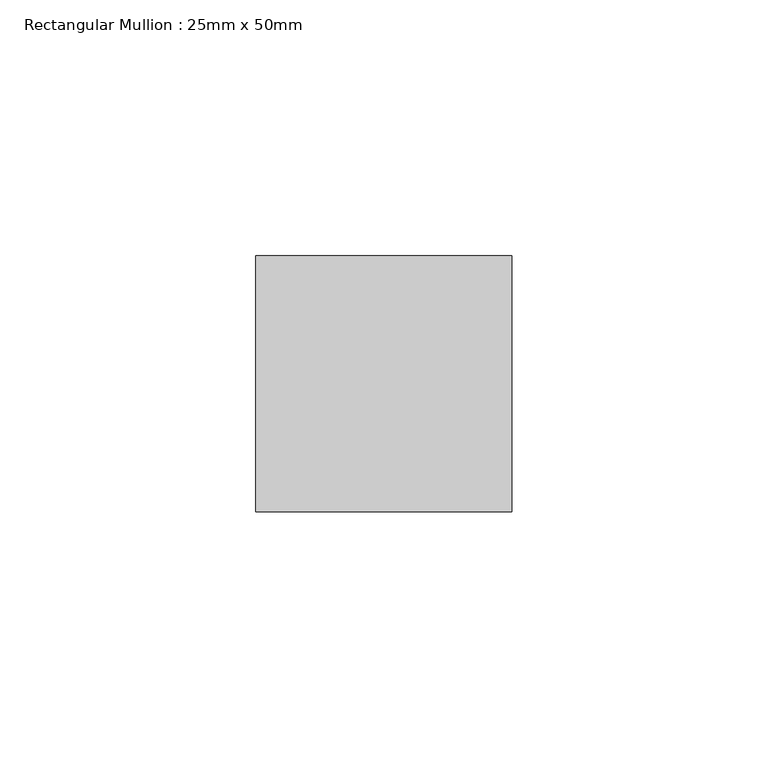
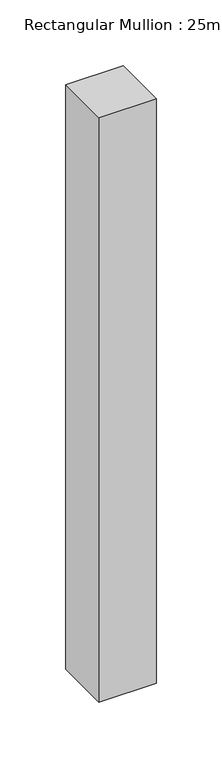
"""IFC4 building model written with IfcOpenShell, lengths in millimetres: member geometry, Rectangular Mullion : 25mm x 50mm."""

import ifcopenshell
import ifcopenshell.guid

model = None  # the IFC model being written
_history = None  # IfcOwnerHistory: only IFC2X3 demands one
_inside = {}  # id of a spatial element -> (the spatial element, [elements in it])
_under = {}  # id of a project, library or spatial element -> (it, [spatial elements below it])
_declared = {}  # id of a project -> (the project, [libraries it declares])
_typed = {}  # id of a type object -> (the type object, [elements of that type])
_made_of = {}  # id of a material, layer set ... -> (it, [elements and type objects made of it])


def new_model(schema):
    """Start an empty IFC model of exactly this schema.

    Asked for "IFC4X3", IfcOpenShell would pick the latest addendum, in which some entities
    have other attributes; the version numbers below select the first issue.
    IFC2X3 requires an IfcOwnerHistory on every rooted entity: one is made here for all.
    """
    global model, _history
    if schema == "IFC4X3":
        model = ifcopenshell.file(schema_version=(4, 3, 0, 0))
    else:
        model = ifcopenshell.file(schema=schema)
    _inside.clear()
    _under.clear()
    _declared.clear()
    _typed.clear()
    _made_of.clear()
    _history = None
    if model.schema == "IFC2X3":
        org = make("IfcOrganization", Name="unknown")
        user = make(
            "IfcPersonAndOrganization",
            ThePerson=make("IfcPerson", FamilyName="unknown"),
            TheOrganization=org,
        )
        app = make(
            "IfcApplication",
            ApplicationDeveloper=org,
            Version="unknown",
            ApplicationFullName="unknown",
            ApplicationIdentifier="unknown",
        )
        _history = make(
            "IfcOwnerHistory",
            OwningUser=user,
            OwningApplication=app,
            ChangeAction="ADDED",
            CreationDate=0,
        )
    return model


def make(cls, **values):
    """One entity of the class cls with the attributes given. An attribute that is None is left unset."""
    return model.create_entity(
        cls, **{name: value for name, value in values.items() if value is not None}
    )


def rooted(cls, **values):
    """An entity with a GlobalId (a new one), such as an element, a storey or a relation."""
    return make(cls, GlobalId=ifcopenshell.guid.new(), OwnerHistory=_history, **values)


def si_unit(unit_type, name, prefix=None):
    """IfcSIUnit, for example si_unit("LENGTHUNIT", "METRE", prefix="MILLI")."""
    return make("IfcSIUnit", UnitType=unit_type, Prefix=prefix, Name=name)


def assignment(units):
    """IfcUnitAssignment: the units of a project."""
    return None if units is None else make("IfcUnitAssignment", Units=units)


def point(xyz):
    """IfcCartesianPoint."""
    return None if xyz is None else make("IfcCartesianPoint", Coordinates=xyz)


def direction(xyz):
    """IfcDirection."""
    return None if xyz is None else make("IfcDirection", DirectionRatios=xyz)


def frame(location, z_axis=None, x_axis=None):
    """IfcAxis2Placement3D, a coordinate frame: its origin and axes. An axis left out is left unset."""
    return make(
        "IfcAxis2Placement3D",
        Location=point(location),
        Axis=direction(z_axis),
        RefDirection=direction(x_axis),
    )


def origin():
    """The frame at (0, 0, 0) with its axes left unset."""
    return frame((0.0, 0.0, 0.0))


def place(relative_to, where):
    """IfcLocalPlacement: puts the frame where relative to a parent placement (None: the world)."""
    return make(
        "IfcLocalPlacement", PlacementRelTo=relative_to, RelativePlacement=where
    )


def context(
    kind, dimensions, precision=None, world=None, true_north=None, identifier=None
):
    """IfcGeometricRepresentationContext, for example the 3D "Model" context."""
    return make(
        "IfcGeometricRepresentationContext",
        ContextIdentifier=identifier,
        ContextType=kind,
        CoordinateSpaceDimension=dimensions,
        Precision=precision,
        WorldCoordinateSystem=world,
        TrueNorth=true_north,
    )


def project(units=None, contexts=None):
    """IfcProject with its units and contexts."""
    return rooted(
        "IfcProject",
        Name="project",
        RepresentationContexts=contexts,
        UnitsInContext=assignment(units),
    )


def spatial(cls, under=None, at=None, **own):
    """A site, building, storey or space (cls), placed at a placement, below another one or the project."""
    s = rooted(cls, ObjectPlacement=at, **own)
    if under is not None:
        _under.setdefault(under.id(), (under, []))[1].append(s)
    return s


def polyline(points):
    """IfcPolyline through the points."""
    return make("IfcPolyline", Points=[point(p) for p in points])


def outline(outer, holes=None, kind="AREA"):
    """IfcArbitraryClosedProfileDef: a profile drawn as a closed curve; with holes, ...WithVoids."""
    if holes is None:
        return make("IfcArbitraryClosedProfileDef", ProfileType=kind, OuterCurve=outer)
    return make(
        "IfcArbitraryProfileDefWithVoids",
        ProfileType=kind,
        OuterCurve=outer,
        InnerCurves=holes,
    )


def extrude(swept, where, along, depth):
    """IfcExtrudedAreaSolid: the profile swept, set in the frame where, extruded along a direction by depth."""
    return make(
        "IfcExtrudedAreaSolid",
        SweptArea=swept,
        Position=where,
        ExtrudedDirection=direction(along),
        Depth=depth,
    )


def shape(context_of_items, identifier, shape_type, items):
    """IfcShapeRepresentation: the items that make up one representation, for example the "Body"."""
    return make(
        "IfcShapeRepresentation",
        ContextOfItems=context_of_items,
        RepresentationIdentifier=identifier,
        RepresentationType=shape_type,
        Items=items,
    )


def source(mapping_origin, context_of_items, identifier, shape_type, items):
    """IfcRepresentationMap: a shape defined once, which mapped items show again and again."""
    return make(
        "IfcRepresentationMap",
        MappingOrigin=mapping_origin,
        MappedRepresentation=shape(context_of_items, identifier, shape_type, items),
    )


def transform(
    local_origin,
    x_axis=None,
    y_axis=None,
    z_axis=None,
    scale=None,
    scale2=None,
    scale3=None,
    uniform=True,
):
    """IfcCartesianTransformationOperator3D, or its non-uniform kind. x_axis, y_axis, z_axis: its Axis1, 2, 3."""
    if uniform:
        return make(
            "IfcCartesianTransformationOperator3D",
            Axis1=direction(x_axis),
            Axis2=direction(y_axis),
            LocalOrigin=point(local_origin),
            Scale=scale,
            Axis3=direction(z_axis),
        )
    return make(
        "IfcCartesianTransformationOperator3DnonUniform",
        Axis1=direction(x_axis),
        Axis2=direction(y_axis),
        LocalOrigin=point(local_origin),
        Scale=scale,
        Axis3=direction(z_axis),
        Scale2=scale2,
        Scale3=scale3,
    )


def mapped(mapping_source, mapping_target):
    """IfcMappedItem: shows the shape of a source again, moved by a transform."""
    return make(
        "IfcMappedItem", MappingSource=mapping_source, MappingTarget=mapping_target
    )


def made_of(thing, what):
    """Note that an element or type object is made of a material, layer set ...; save() writes the relation."""
    if what is not None:
        _made_of.setdefault(what.id(), (what, []))[1].append(thing)
    return thing


def element(
    cls,
    number,
    at=None,
    inside=None,
    cuts=None,
    type_object=None,
    material=None,
    context=None,
    identifier="Body",
    shape_type=None,
    held_by="IfcProductDefinitionShape",
    body=None,
    shapes=None,
    **own,
):
    """One element of the class cls, such as IfcWall. Its Tag is "e" and its number.

    at: its placement. inside: the storey or other place that contains it. cuts: it is an
    opening in that element (IfcRelVoidsElement). A single representation is given by context,
    identifier, shape_type and body (its items); several are given by shapes. held_by: the class
    of the entity that holds the representations. save() writes the other relations.
    """
    e = rooted(cls, Tag="e%d" % number, ObjectPlacement=at, **own)
    if body is not None:
        shapes = [shape(context, identifier, shape_type, body)]
    if shapes is not None:
        e.Representation = make(held_by, Representations=shapes)
    if inside is not None:
        _inside.setdefault(inside.id(), (inside, []))[1].append(e)
    if cuts is not None:
        rooted(
            "IfcRelVoidsElement", RelatingBuildingElement=cuts, RelatedOpeningElement=e
        )
    if type_object is not None:
        _typed.setdefault(type_object.id(), (type_object, []))[1].append(e)
    return made_of(e, material)


def aggregate(whole, parts):
    """IfcRelAggregates: a whole, such as a stair, and the parts it consists of."""
    return rooted("IfcRelAggregates", RelatingObject=whole, RelatedObjects=parts)


def save(model, path):
    """Write the relations noted so far, then the file.

    IfcRelAggregates (storeys below a building ...), IfcRelContainedInSpatialStructure (elements
    in a storey), IfcRelDefinesByType, IfcRelAssociatesMaterial and IfcRelDeclares: one each for
    every whole, place, type object, material and project.
    """
    for whole, parts in _under.values():
        aggregate(whole, parts)
    for where, things in _inside.values():
        rooted(
            "IfcRelContainedInSpatialStructure",
            RelatedElements=things,
            RelatingStructure=where,
        )
    for kind, things in _typed.values():
        rooted("IfcRelDefinesByType", RelatedObjects=things, RelatingType=kind)
    for what, things in _made_of.values():
        rooted("IfcRelAssociatesMaterial", RelatedObjects=things, RelatingMaterial=what)
    for by, libraries in _declared.values():
        rooted("IfcRelDeclares", RelatingContext=by, RelatedDefinitions=libraries)
    model.write(path)


def rectangular_mullion_25mm_x_50mm_f5f1bae9(model_context):
    return source(origin(), model_context, "Body", "SweptSolid", [
        extrude(outline(polyline([(25.0, 25.0), (25.0, -25.0), (-25.0, -25.0), (-25.0, 25.0), (25.0, 25.0)])), frame((0.0, 0.0, -540.9991859), z_axis=(0.0, 0.0, 1.0), x_axis=(1.0, 0.0, 0.0)), (0.0, 0.0, 1.0), 540.9991859),
    ])


if __name__ == "__main__":
    model = new_model("IFC4")
    model_context = context("Model", 3, world=origin())
    ifc_project = project(units=[si_unit("LENGTHUNIT", "METRE", prefix="MILLI")], contexts=[model_context])
    site = spatial("IfcSite", under=ifc_project)
    building = spatial("IfcBuilding", under=site)
    placement = place(None, origin())
    rectangular_mullion_25mm_x_50mm_shape = rectangular_mullion_25mm_x_50mm_f5f1bae9(model_context)
    element("IfcMember", 1, ObjectType="Rectangular Mullion : 25mm x 50mm", at=placement, inside=building, context=model_context, shape_type="MappedRepresentation", body=[
        mapped(rectangular_mullion_25mm_x_50mm_shape, transform((0.0, 0.0, 0.0), x_axis=(1.0, 0.0, 0.0), y_axis=(0.0, 1.0, 0.0), z_axis=(0.0, 0.0, 1.0))),
    ])
    save(model, "model.ifc")
